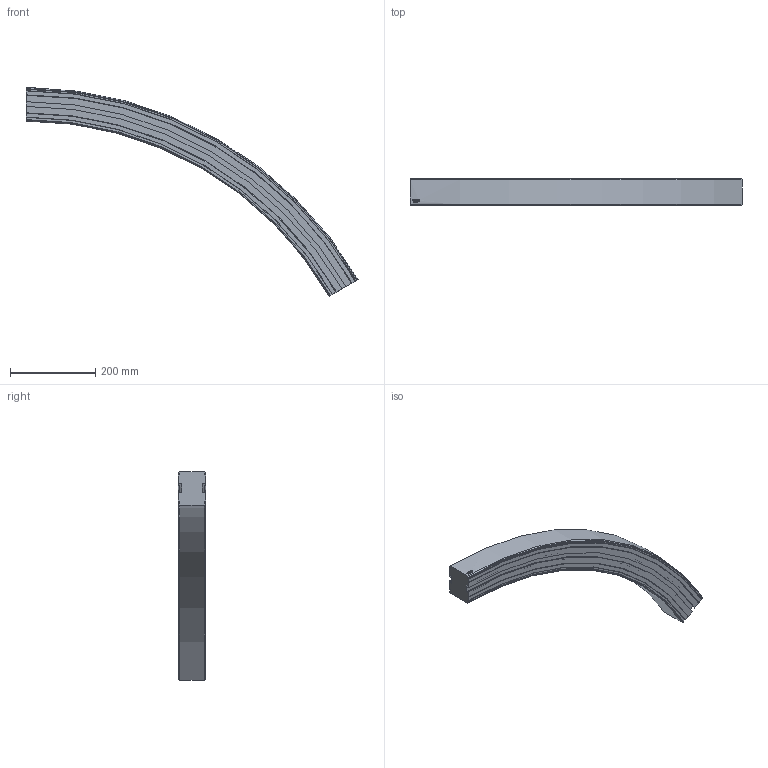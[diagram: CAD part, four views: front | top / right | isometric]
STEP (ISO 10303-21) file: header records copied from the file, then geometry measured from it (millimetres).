
FILE_DESCRIPTION((''),'2;1');
FILE_NAME('C:\Vault Klient\Projekt\Koncept konstruktion\Serie 620 Balk\620-5680_DOWN.stp','2009-11-27T07:33:28',('Mathias'),(''),'Autodesk Inventor 2010','Autodesk Inventor 2010','');
FILE_SCHEMA(('AUTOMOTIVE_DESIGN { 1 0 10303 214 1 1 1 1 }'));
Length unit declared in the file: millimetre
Products named in the file (1): 620-5680_DOWN
Bounding box: 777.69 x 64 x 488 mm (x, y, z)
Volume: 4183306.6 mm3; surface area: 333688.2 mm2
Topology: 1 solids, 1 shells, 93 faces, 258 edges, 172 vertices
Faces by surface type: plane 40, cylinder 23, bspline 14, cone 12, torus 4
Entity records: 3454 total; most frequent: CARTESIAN_POINT 1019, ORIENTED_EDGE 516, DIRECTION 472, EDGE_CURVE 258, VERTEX_POINT 172, AXIS2_PLACEMENT_3D 162, VECTOR 148, LINE 148
